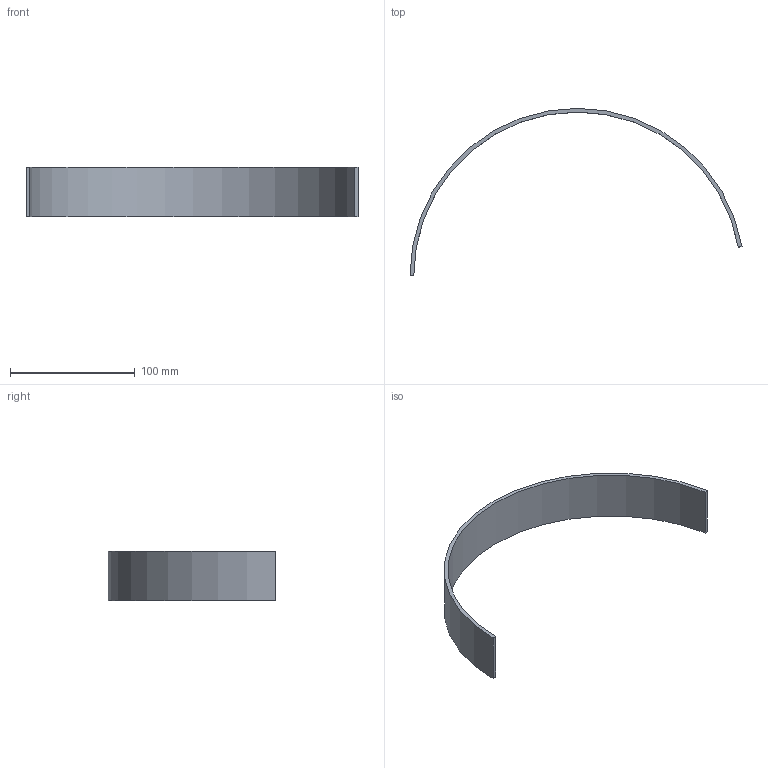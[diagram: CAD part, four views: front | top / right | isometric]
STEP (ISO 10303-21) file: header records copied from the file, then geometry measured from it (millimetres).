
FILE_DESCRIPTION(('Open CASCADE Model'),'2;1');
FILE_NAME('Open CASCADE Shape Model','2026-10-19T10:09:20',('Author'),( 'Open CASCADE'),'Open CASCADE STEP processor 8.0','Open CASCADE 8.0' ,'Unknown');
FILE_SCHEMA(('AUTOMOTIVE_DESIGN { 1 0 10303 214 1 1 1 1 }'));
Length unit declared in the file: millimetre
Products named in the file (1): MS04_LINER_EPDM3_SECTOR_170_P05 91
Bounding box: 265.96 x 134 x 40 mm (x, y, z)
Volume: 47176.2 mm3; surface area: 34049.6 mm2
Topology: 1 solids, 1 shells, 6 faces, 12 edges, 8 vertices
Faces by surface type: plane 4, cylinder 2
Entity records: 338 total; most frequent: CARTESIAN_POINT 75, DIRECTION 50, LINE 28, VECTOR 28, ORIENTED_EDGE 24, PCURVE 24, DEFINITIONAL_REPRESENTATION 24, EDGE_CURVE 12
